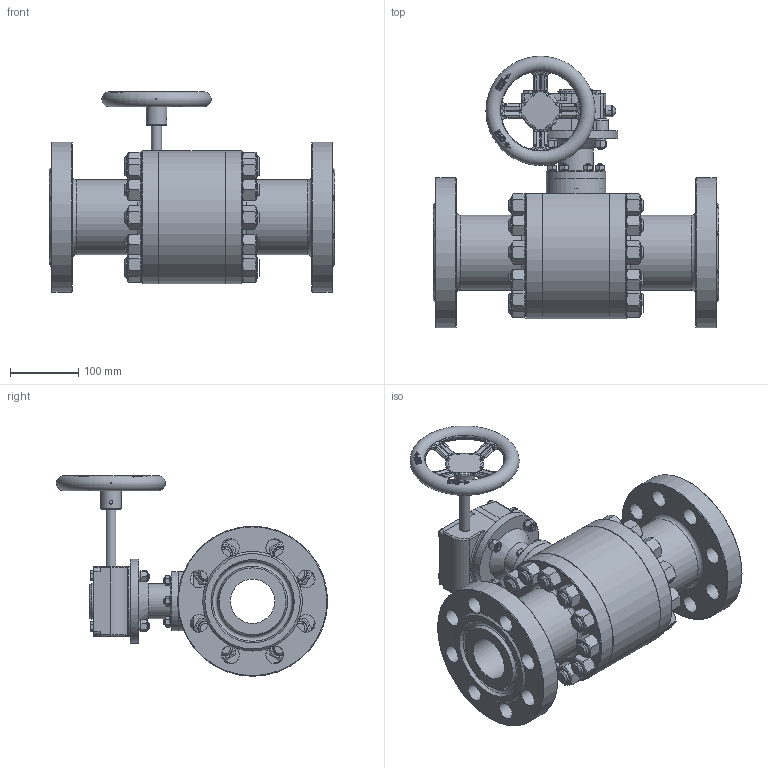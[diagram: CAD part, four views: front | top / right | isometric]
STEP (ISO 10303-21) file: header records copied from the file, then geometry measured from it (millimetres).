
FILE_DESCRIPTION(('STEP AP203'), '1');
FILE_NAME('ZARDP 065.160.27.P.stp', '2013-12-06T09:10:10', ('1'), ('1'), 'ASCON STEP Converter 1.3', 'Kompas 3D', '');
FILE_SCHEMA(('CONFIG_CONTROL_DESIGN','SUPPORT_RESOURCE_SCHEMA'));
Length unit declared in the file: millimetre
Products named in the file (1): 230
Bounding box: 419 x 397.59 x 294 mm (x, y, z)
Volume: 7571090.7 mm3; surface area: 939379.1 mm2
Topology: 1 solids, 76 shells, 2577 faces, 6299 edges, 3944 vertices
Faces by surface type: plane 1136, cylinder 571, cone 456, bspline 273, torus 95, extrusion 27, sphere 19
Full cylindrical faces by diameter (mm): 2 x4, 3.242 x4, 4.917 x18, 5.1 x1, 6.647 x10, 8 x12, 8.376 x8, 9 x6, 10 x14, 10.106 x6, 10.4 x1, 11 x4, 12 x6, 13 x6, 15 x2, 16 x2, 16.5 x2, 17.294 x22, 18 x8, 20 x50, 22 x22, 26 x16, 30 x2, 39.6 x2, 40 x1, 40.5 x1, 41 x1, 41.35 x2, 42.35 x2, 42.5 x2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
Entity records: 157914 total; most frequent: CARTESIAN_POINT 101381, ORIENTED_EDGE 12430, DIRECTION 10511, EDGE_CURVE 6215, AXIS2_PLACEMENT_3D 4038, VERTEX_POINT 3945, EDGE_LOOP 2836, ADVANCED_FACE 2575
